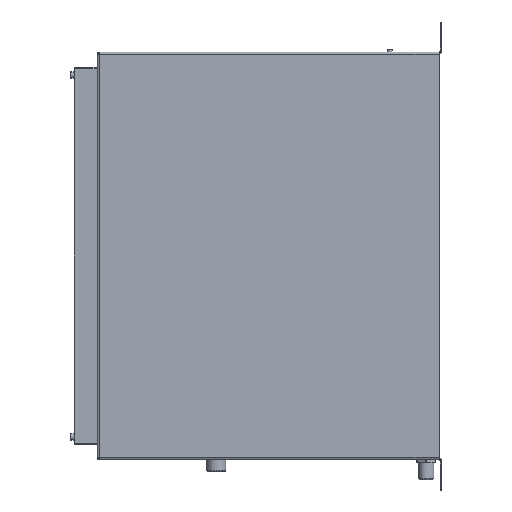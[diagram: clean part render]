
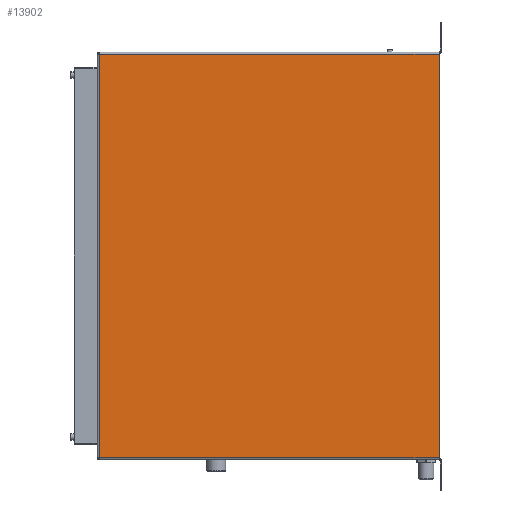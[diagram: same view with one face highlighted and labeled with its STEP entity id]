
A CAD part, front view. The second image highlights one B-rep face of the part: STEP entity #13902.
In plain terms, the highlighted planar face has unit normal (0, -1, 0).
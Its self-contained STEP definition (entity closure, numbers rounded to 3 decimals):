
#93 = DIRECTION ( 'NONE',  ( 0., 0., -1. ) ) ;
#540 = CARTESIAN_POINT ( 'NONE',  ( -225., -52.5, -537. ) ) ;
#659 = ORIENTED_EDGE ( 'NONE', *, *, #4913, .T. ) ;
#751 = VERTEX_POINT ( 'NONE', #2558 ) ;
#924 = DIRECTION ( 'NONE',  ( -1., 0., 0. ) ) ;
#1179 = VERTEX_POINT ( 'NONE', #17587 ) ;
#1222 = DIRECTION ( 'NONE',  ( -1., 0., 0. ) ) ;
#1301 = CARTESIAN_POINT ( 'NONE',  ( 0., -52.5, 0. ) ) ;
#1709 = VECTOR ( 'NONE', #924, 1000. ) ;
#2331 = VECTOR ( 'NONE', #1222, 1000. ) ;
#2416 = EDGE_LOOP ( 'NONE', ( #14561, #659, #16538, #17011 ) ) ;
#2549 = CARTESIAN_POINT ( 'NONE',  ( 0., -52.5, -3. ) ) ;
#2558 = CARTESIAN_POINT ( 'NONE',  ( -225., -52.5, -537. ) ) ;
#2825 = DIRECTION ( 'NONE',  ( 0., 0., -1. ) ) ;
#3657 = VECTOR ( 'NONE', #2825, 1000. ) ;
#4330 = FACE_OUTER_BOUND ( 'NONE', #2416, .T. ) ;
#4706 = EDGE_CURVE ( 'NONE', #1179, #751, #6730, .T. ) ;
#4913 = EDGE_CURVE ( 'NONE', #18549, #11530, #18412, .T. ) ;
#5686 = CARTESIAN_POINT ( 'NONE',  ( -225., -52.5, -3. ) ) ;
#5713 = EDGE_CURVE ( 'NONE', #18549, #1179, #20009, .T. ) ;
#6730 = LINE ( 'NONE', #540, #1709 ) ;
#8149 = CARTESIAN_POINT ( 'NONE',  ( -225., -52.5, -1.5 ) ) ;
#9556 = CARTESIAN_POINT ( 'NONE',  ( 225., -52.5, -3. ) ) ;
#11530 = VERTEX_POINT ( 'NONE', #5686 ) ;
#12202 = CARTESIAN_POINT ( 'NONE',  ( 225., -52.5, -537. ) ) ;
#13902 = ADVANCED_FACE ( 'NONE', ( #4330 ), #18287, .T. ) ;
#14360 = DIRECTION ( 'NONE',  ( 0., 0., 1. ) ) ;
#14458 = LINE ( 'NONE', #8149, #15697 ) ;
#14561 = ORIENTED_EDGE ( 'NONE', *, *, #5713, .F. ) ;
#15546 = DIRECTION ( 'NONE',  ( 0., -1., 0. ) ) ;
#15697 = VECTOR ( 'NONE', #14360, 1000. ) ;
#16538 = ORIENTED_EDGE ( 'NONE', *, *, #19527, .F. ) ;
#17011 = ORIENTED_EDGE ( 'NONE', *, *, #4706, .F. ) ;
#17587 = CARTESIAN_POINT ( 'NONE',  ( 225., -52.5, -537. ) ) ;
#18287 = PLANE ( 'NONE',  #19107 ) ;
#18412 = LINE ( 'NONE', #2549, #2331 ) ;
#18549 = VERTEX_POINT ( 'NONE', #9556 ) ;
#19107 = AXIS2_PLACEMENT_3D ( 'NONE', #1301, #15546, #93 ) ;
#19527 = EDGE_CURVE ( 'NONE', #751, #11530, #14458, .T. ) ;
#20009 = LINE ( 'NONE', #12202, #3657 ) ;
